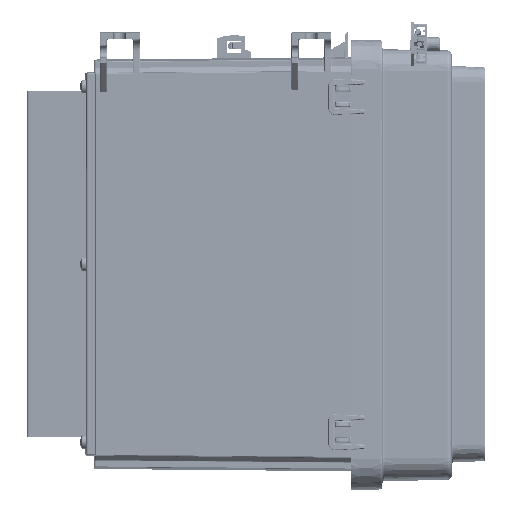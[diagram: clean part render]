
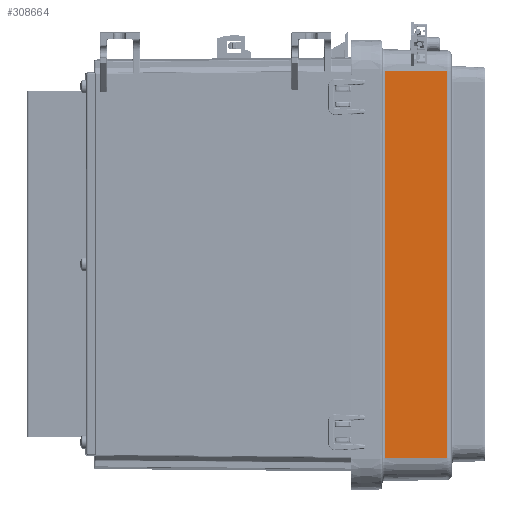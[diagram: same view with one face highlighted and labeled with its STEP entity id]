
A CAD part, front view. The second image highlights one B-rep face of the part: STEP entity #308664.
In plain terms, the highlighted planar face has unit normal (0.018, -1, 0) as drawn and (0, -1, -0.017) by its records, which use the part's own axes.
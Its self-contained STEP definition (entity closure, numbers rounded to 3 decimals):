
#282916=DIRECTION('',(1.,0.,0.));
#282917=VECTOR('',#282916,172.186);
#282918=CARTESIAN_POINT('',(-90.414,-36.072,
-0.035));
#282919=LINE('',#282918,#282917);
#282920=DIRECTION('',(1.,0.,0.));
#282921=VECTOR('',#282920,172.186);
#282922=CARTESIAN_POINT('',(-90.414,-36.558,
27.817));
#282923=LINE('',#282922,#282921);
#282924=DIRECTION('',(0.,0.017,
-1.));
#282925=VECTOR('',#282924,27.857);
#282926=CARTESIAN_POINT('',(81.772,-36.558,
27.817));
#282927=LINE('',#282926,#282925);
#282948=DIRECTION('',(0.,0.017,-1.));
#282949=VECTOR('',#282948,27.857);
#282950=CARTESIAN_POINT('',(-90.414,-36.558,
27.817));
#282951=LINE('',#282950,#282949);
#292811=CARTESIAN_POINT('',(-90.414,-36.558,
27.817));
#292812=VERTEX_POINT('',#292811);
#292815=CARTESIAN_POINT('',(81.772,-36.558,
27.817));
#292816=VERTEX_POINT('',#292815);
#292912=CARTESIAN_POINT('',(81.772,-36.072,
-0.035));
#292914=VERTEX_POINT('',#292912);
#292920=CARTESIAN_POINT('',(-90.414,-36.072,
-0.035));
#292921=VERTEX_POINT('',#292920);
#308650=CARTESIAN_POINT('',(-102.846,-36.575,28.8));
#308651=DIRECTION('',(0.,-1.,-0.017));
#308652=DIRECTION('',(-1.,0.,0.));
#308653=AXIS2_PLACEMENT_3D('',#308650,#308651,#308652);
#308654=PLANE('',#308653);
#308656=ORIENTED_EDGE('',*,*,#308655,.F.);
#308658=ORIENTED_EDGE('',*,*,#308657,.F.);
#308660=ORIENTED_EDGE('',*,*,#308659,.T.);
#308661=ORIENTED_EDGE('',*,*,#308642,.T.);
#308662=EDGE_LOOP('',(#308656,#308658,#308660,#308661));
#308663=FACE_OUTER_BOUND('',#308662,.F.);
#308664=ADVANCED_FACE('',(#308663),#308654,.T.);
#308642=EDGE_CURVE('',#292816,#292914,#282927,.T.);
#308655=EDGE_CURVE('',#292921,#292914,#282919,.T.);
#308657=EDGE_CURVE('',#292812,#292921,#282951,.T.);
#308659=EDGE_CURVE('',#292812,#292816,#282923,.T.);
